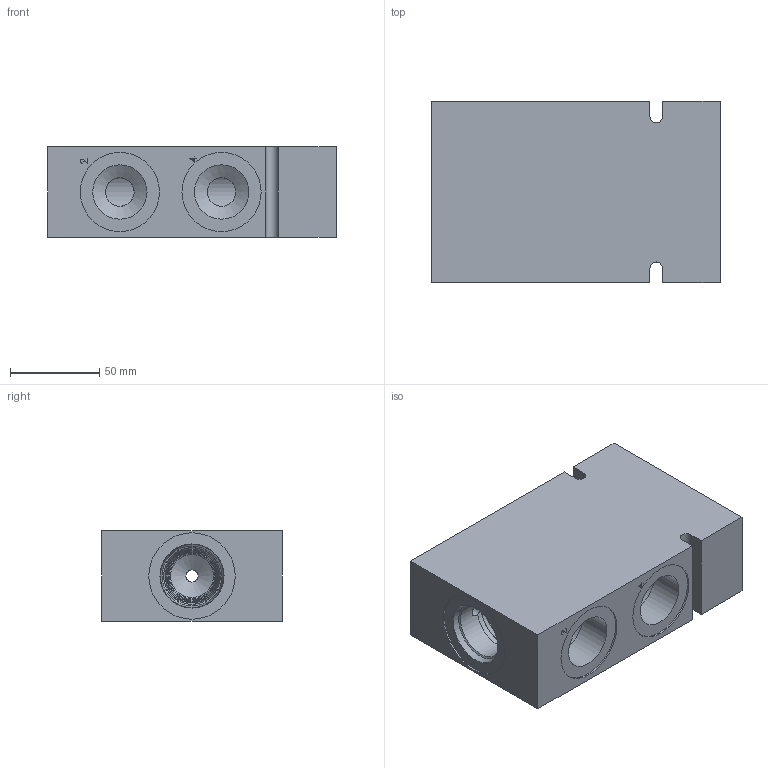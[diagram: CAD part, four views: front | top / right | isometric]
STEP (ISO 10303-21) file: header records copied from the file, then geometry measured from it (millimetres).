
FILE_DESCRIPTION( ( 'Unknown' ), '1' );
FILE_NAME( 'G:/Graphic Design/Graphic Design 2/Data Sheets/Delta Bodies/3_STP/B-DSOE5.stp', 'Unknown', ( 'Unknown' ), ( 'Unknown' ), 'PSStep 16.0.42', 'Unknown', ' ' );
FILE_SCHEMA( ( 'AUTOMOTIVE_DESIGN { 1 0 10303 214 1 1 1 1 }' ) );
Length unit declared in the file: millimetre
Products named in the file (1): 1
Bounding box: 162 x 101.6 x 50.8 mm (x, y, z)
Surface area: 82425.5 mm2 (no closed solid volume)
Topology: 0 solids, 191 shells, 191 faces, 952 edges, 903 vertices
Faces by surface type: plane 142, cylinder 34, cone 14, torus 1
Full cylindrical faces by diameter (mm): 0.2 x2, 6.3 x1, 6.8 x2, 11 x1, 11.5 x4, 16 x3, 22.22 x2, 24 x1, 25.476 x1, 27.051 x1, 28.651 x1, 30.226 x1, 30.5 x6, 31.806 x2, 44.45 x3, 48.514 x1
Entity records: 10570 total; most frequent: CARTESIAN_POINT 3066, DIRECTION 926, ORIENTED_EDGE 878, EDGE_CURVE 878, VERTEX_POINT 878, B_SPLINE_CURVE_WITH_KNOTS 462, AXIS2_PLACEMENT_3D 318, LINE 290
